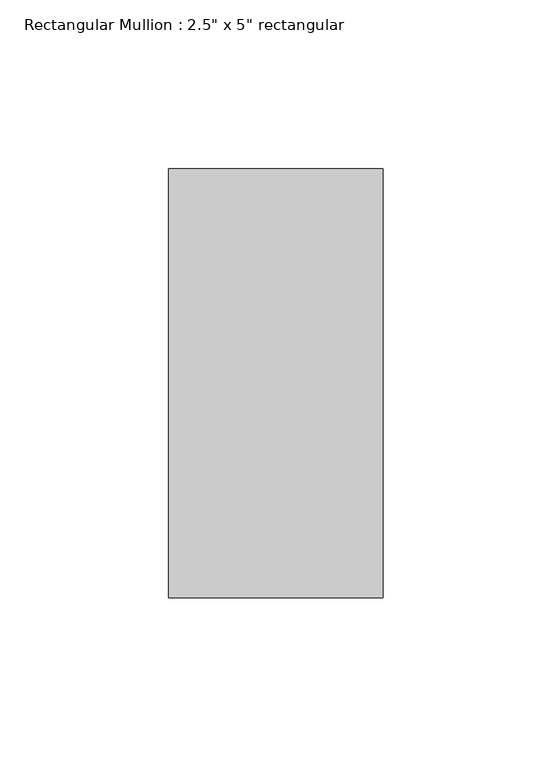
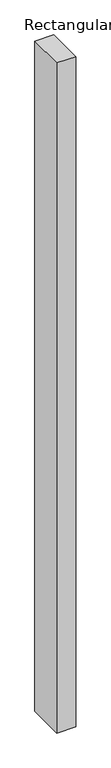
"""IFC4 building model written with IfcOpenShell, lengths in millimetres: member geometry."""

import ifcopenshell
import ifcopenshell.guid

model = None  # the IFC model being written
_history = None  # IfcOwnerHistory: only IFC2X3 demands one
_inside = {}  # id of a spatial element -> (the spatial element, [elements in it])
_under = {}  # id of a project, library or spatial element -> (it, [spatial elements below it])
_declared = {}  # id of a project -> (the project, [libraries it declares])
_typed = {}  # id of a type object -> (the type object, [elements of that type])
_made_of = {}  # id of a material, layer set ... -> (it, [elements and type objects made of it])


def new_model(schema):
    """Start an empty IFC model of exactly this schema.

    Asked for "IFC4X3", IfcOpenShell would pick the latest addendum, in which some entities
    have other attributes; the version numbers below select the first issue.
    IFC2X3 requires an IfcOwnerHistory on every rooted entity: one is made here for all.
    """
    global model, _history
    if schema == "IFC4X3":
        model = ifcopenshell.file(schema_version=(4, 3, 0, 0))
    else:
        model = ifcopenshell.file(schema=schema)
    _inside.clear()
    _under.clear()
    _declared.clear()
    _typed.clear()
    _made_of.clear()
    _history = None
    if model.schema == "IFC2X3":
        org = make("IfcOrganization", Name="unknown")
        user = make(
            "IfcPersonAndOrganization",
            ThePerson=make("IfcPerson", FamilyName="unknown"),
            TheOrganization=org,
        )
        app = make(
            "IfcApplication",
            ApplicationDeveloper=org,
            Version="unknown",
            ApplicationFullName="unknown",
            ApplicationIdentifier="unknown",
        )
        _history = make(
            "IfcOwnerHistory",
            OwningUser=user,
            OwningApplication=app,
            ChangeAction="ADDED",
            CreationDate=0,
        )
    return model


def make(cls, **values):
    """One entity of the class cls with the attributes given. An attribute that is None is left unset."""
    return model.create_entity(
        cls, **{name: value for name, value in values.items() if value is not None}
    )


def rooted(cls, **values):
    """An entity with a GlobalId (a new one), such as an element, a storey or a relation."""
    return make(cls, GlobalId=ifcopenshell.guid.new(), OwnerHistory=_history, **values)


def si_unit(unit_type, name, prefix=None):
    """IfcSIUnit, for example si_unit("LENGTHUNIT", "METRE", prefix="MILLI")."""
    return make("IfcSIUnit", UnitType=unit_type, Prefix=prefix, Name=name)


def assignment(units):
    """IfcUnitAssignment: the units of a project."""
    return None if units is None else make("IfcUnitAssignment", Units=units)


def point(xyz):
    """IfcCartesianPoint."""
    return None if xyz is None else make("IfcCartesianPoint", Coordinates=xyz)


def direction(xyz):
    """IfcDirection."""
    return None if xyz is None else make("IfcDirection", DirectionRatios=xyz)


def frame(location, z_axis=None, x_axis=None):
    """IfcAxis2Placement3D, a coordinate frame: its origin and axes. An axis left out is left unset."""
    return make(
        "IfcAxis2Placement3D",
        Location=point(location),
        Axis=direction(z_axis),
        RefDirection=direction(x_axis),
    )


def origin():
    """The frame at (0, 0, 0) with its axes left unset."""
    return frame((0.0, 0.0, 0.0))


def place(relative_to, where):
    """IfcLocalPlacement: puts the frame where relative to a parent placement (None: the world)."""
    return make(
        "IfcLocalPlacement", PlacementRelTo=relative_to, RelativePlacement=where
    )


def context(
    kind, dimensions, precision=None, world=None, true_north=None, identifier=None
):
    """IfcGeometricRepresentationContext, for example the 3D "Model" context."""
    return make(
        "IfcGeometricRepresentationContext",
        ContextIdentifier=identifier,
        ContextType=kind,
        CoordinateSpaceDimension=dimensions,
        Precision=precision,
        WorldCoordinateSystem=world,
        TrueNorth=true_north,
    )


def project(units=None, contexts=None):
    """IfcProject with its units and contexts."""
    return rooted(
        "IfcProject",
        Name="project",
        RepresentationContexts=contexts,
        UnitsInContext=assignment(units),
    )


def spatial(cls, under=None, at=None, **own):
    """A site, building, storey or space (cls), placed at a placement, below another one or the project."""
    s = rooted(cls, ObjectPlacement=at, **own)
    if under is not None:
        _under.setdefault(under.id(), (under, []))[1].append(s)
    return s


def polyline(points):
    """IfcPolyline through the points."""
    return make("IfcPolyline", Points=[point(p) for p in points])


def outline(outer, holes=None, kind="AREA"):
    """IfcArbitraryClosedProfileDef: a profile drawn as a closed curve; with holes, ...WithVoids."""
    if holes is None:
        return make("IfcArbitraryClosedProfileDef", ProfileType=kind, OuterCurve=outer)
    return make(
        "IfcArbitraryProfileDefWithVoids",
        ProfileType=kind,
        OuterCurve=outer,
        InnerCurves=holes,
    )


def extrude(swept, where, along, depth):
    """IfcExtrudedAreaSolid: the profile swept, set in the frame where, extruded along a direction by depth."""
    return make(
        "IfcExtrudedAreaSolid",
        SweptArea=swept,
        Position=where,
        ExtrudedDirection=direction(along),
        Depth=depth,
    )


def shape(context_of_items, identifier, shape_type, items):
    """IfcShapeRepresentation: the items that make up one representation, for example the "Body"."""
    return make(
        "IfcShapeRepresentation",
        ContextOfItems=context_of_items,
        RepresentationIdentifier=identifier,
        RepresentationType=shape_type,
        Items=items,
    )


def source(mapping_origin, context_of_items, identifier, shape_type, items):
    """IfcRepresentationMap: a shape defined once, which mapped items show again and again."""
    return make(
        "IfcRepresentationMap",
        MappingOrigin=mapping_origin,
        MappedRepresentation=shape(context_of_items, identifier, shape_type, items),
    )


def transform(
    local_origin,
    x_axis=None,
    y_axis=None,
    z_axis=None,
    scale=None,
    scale2=None,
    scale3=None,
    uniform=True,
):
    """IfcCartesianTransformationOperator3D, or its non-uniform kind. x_axis, y_axis, z_axis: its Axis1, 2, 3."""
    if uniform:
        return make(
            "IfcCartesianTransformationOperator3D",
            Axis1=direction(x_axis),
            Axis2=direction(y_axis),
            LocalOrigin=point(local_origin),
            Scale=scale,
            Axis3=direction(z_axis),
        )
    return make(
        "IfcCartesianTransformationOperator3DnonUniform",
        Axis1=direction(x_axis),
        Axis2=direction(y_axis),
        LocalOrigin=point(local_origin),
        Scale=scale,
        Axis3=direction(z_axis),
        Scale2=scale2,
        Scale3=scale3,
    )


def mapped(mapping_source, mapping_target):
    """IfcMappedItem: shows the shape of a source again, moved by a transform."""
    return make(
        "IfcMappedItem", MappingSource=mapping_source, MappingTarget=mapping_target
    )


def made_of(thing, what):
    """Note that an element or type object is made of a material, layer set ...; save() writes the relation."""
    if what is not None:
        _made_of.setdefault(what.id(), (what, []))[1].append(thing)
    return thing


def element(
    cls,
    number,
    at=None,
    inside=None,
    cuts=None,
    type_object=None,
    material=None,
    context=None,
    identifier="Body",
    shape_type=None,
    held_by="IfcProductDefinitionShape",
    body=None,
    shapes=None,
    **own,
):
    """One element of the class cls, such as IfcWall. Its Tag is "e" and its number.

    at: its placement. inside: the storey or other place that contains it. cuts: it is an
    opening in that element (IfcRelVoidsElement). A single representation is given by context,
    identifier, shape_type and body (its items); several are given by shapes. held_by: the class
    of the entity that holds the representations. save() writes the other relations.
    """
    e = rooted(cls, Tag="e%d" % number, ObjectPlacement=at, **own)
    if body is not None:
        shapes = [shape(context, identifier, shape_type, body)]
    if shapes is not None:
        e.Representation = make(held_by, Representations=shapes)
    if inside is not None:
        _inside.setdefault(inside.id(), (inside, []))[1].append(e)
    if cuts is not None:
        rooted(
            "IfcRelVoidsElement", RelatingBuildingElement=cuts, RelatedOpeningElement=e
        )
    if type_object is not None:
        _typed.setdefault(type_object.id(), (type_object, []))[1].append(e)
    return made_of(e, material)


def aggregate(whole, parts):
    """IfcRelAggregates: a whole, such as a stair, and the parts it consists of."""
    return rooted("IfcRelAggregates", RelatingObject=whole, RelatedObjects=parts)


def save(model, path):
    """Write the relations noted so far, then the file.

    IfcRelAggregates (storeys below a building ...), IfcRelContainedInSpatialStructure (elements
    in a storey), IfcRelDefinesByType, IfcRelAssociatesMaterial and IfcRelDeclares: one each for
    every whole, place, type object, material and project.
    """
    for whole, parts in _under.values():
        aggregate(whole, parts)
    for where, things in _inside.values():
        rooted(
            "IfcRelContainedInSpatialStructure",
            RelatedElements=things,
            RelatingStructure=where,
        )
    for kind, things in _typed.values():
        rooted("IfcRelDefinesByType", RelatedObjects=things, RelatingType=kind)
    for what, things in _made_of.values():
        rooted("IfcRelAssociatesMaterial", RelatedObjects=things, RelatingMaterial=what)
    for by, libraries in _declared.values():
        rooted("IfcRelDeclares", RelatingContext=by, RelatedDefinitions=libraries)
    model.write(path)


def member_ca91947d(model_context):
    return source(origin(), model_context, "Body", "SweptSolid", [
        extrude(outline(polyline([(0.0, 63.5), (0.0, -63.5), (-63.5, -63.5), (-63.5, 63.5), (0.0, 63.5)])), frame((0.0, 0.0, -2374.8999999), z_axis=(0.0, 0.0, 1.0), x_axis=(1.0, 0.0, 0.0)), (0.0, 0.0, 1.0), 2374.8999999),
    ])


if __name__ == "__main__":
    model = new_model("IFC4")
    model_context = context("Model", 3, world=origin())
    ifc_project = project(units=[si_unit("LENGTHUNIT", "METRE", prefix="MILLI")], contexts=[model_context])
    site = spatial("IfcSite", under=ifc_project)
    building = spatial("IfcBuilding", under=site)
    placement = place(None, origin())
    member_shape = member_ca91947d(model_context)
    element("IfcMember", 1, ObjectType="Rectangular Mullion : 2.5\" x 5\" rectangular", at=placement, inside=building, context=model_context, shape_type="MappedRepresentation", body=[
        mapped(member_shape, transform((0.0, 0.0, 0.0), x_axis=(1.0, 0.0, 0.0), y_axis=(0.0, 1.0, 0.0), z_axis=(0.0, 0.0, 1.0))),
    ])
    save(model, "model.ifc")
